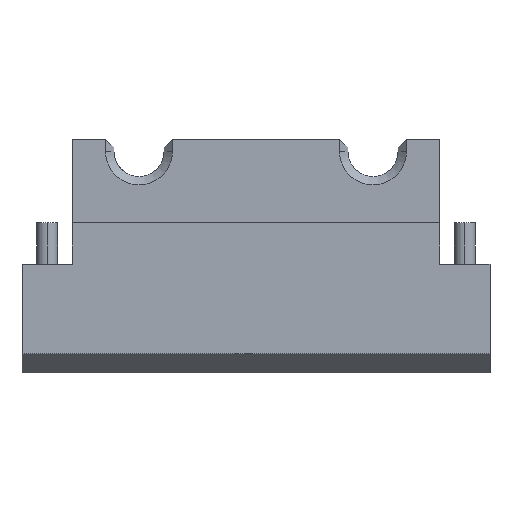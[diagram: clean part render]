
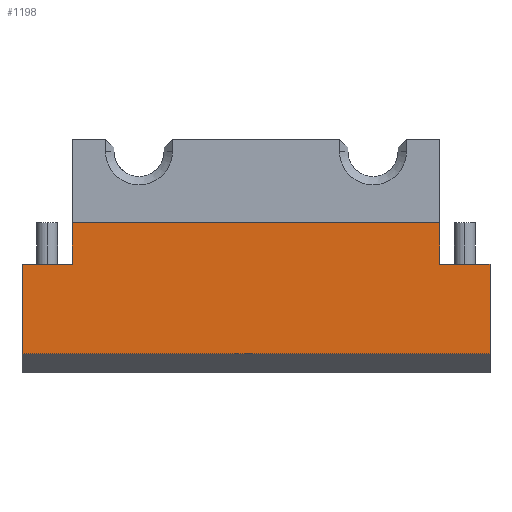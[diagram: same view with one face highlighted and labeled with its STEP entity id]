
A CAD part, left-side view. The second image highlights one B-rep face of the part: STEP entity #1198.
In plain terms, the highlighted planar face has unit normal (-1, 0, 0).
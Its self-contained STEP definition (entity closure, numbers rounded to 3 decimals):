
#13 = CARTESIAN_POINT ( 'NONE',  ( 0., -11., 28. ) ) ;
#19 = VERTEX_POINT ( 'NONE', #573 ) ;
#47 = LINE ( 'NONE', #464, #530 ) ;
#68 = VERTEX_POINT ( 'NONE', #670 ) ;
#91 = VECTOR ( 'NONE', #1097, 1000. ) ;
#93 = CARTESIAN_POINT ( 'NONE',  ( 0., -11., 13. ) ) ;
#95 = CARTESIAN_POINT ( 'NONE',  ( 0., 33., 18. ) ) ;
#104 = EDGE_CURVE ( 'NONE', #661, #295, #951, .T. ) ;
#112 = LINE ( 'NONE', #814, #432 ) ;
#136 = LINE ( 'NONE', #674, #340 ) ;
#156 = ORIENTED_EDGE ( 'NONE', *, *, #542, .T. ) ;
#197 = LINE ( 'NONE', #13, #415 ) ;
#202 = CARTESIAN_POINT ( 'NONE',  ( 0., 39., 28. ) ) ;
#204 = EDGE_CURVE ( 'NONE', #19, #661, #197, .T. ) ;
#211 = VERTEX_POINT ( 'NONE', #916 ) ;
#268 = DIRECTION ( 'NONE',  ( 0., 0., -1. ) ) ;
#289 = ORIENTED_EDGE ( 'NONE', *, *, #781, .F. ) ;
#295 = VERTEX_POINT ( 'NONE', #1681 ) ;
#340 = VECTOR ( 'NONE', #1062, 1000. ) ;
#364 = VECTOR ( 'NONE', #268, 1000. ) ;
#415 = VECTOR ( 'NONE', #1899, 1000. ) ;
#429 = VERTEX_POINT ( 'NONE', #848 ) ;
#432 = VECTOR ( 'NONE', #1536, 1000. ) ;
#447 = CARTESIAN_POINT ( 'NONE',  ( 0., -11., 13. ) ) ;
#457 = ORIENTED_EDGE ( 'NONE', *, *, #849, .F. ) ;
#464 = CARTESIAN_POINT ( 'NONE',  ( 0., 33., 13. ) ) ;
#504 = DIRECTION ( 'NONE',  ( 0., -1., 0. ) ) ;
#528 = CARTESIAN_POINT ( 'NONE',  ( 0., -17., 2.309 ) ) ;
#530 = VECTOR ( 'NONE', #551, 1000. ) ;
#542 = EDGE_CURVE ( 'NONE', #19, #1820, #112, .T. ) ;
#551 = DIRECTION ( 'NONE',  ( 0., 0., 1. ) ) ;
#561 = PLANE ( 'NONE',  #825 ) ;
#573 = CARTESIAN_POINT ( 'NONE',  ( 0., -11., 18. ) ) ;
#629 = DIRECTION ( 'NONE',  ( 0., 0., 1. ) ) ;
#661 = VERTEX_POINT ( 'NONE', #447 ) ;
#670 = CARTESIAN_POINT ( 'NONE',  ( 0., 33., 13. ) ) ;
#674 = CARTESIAN_POINT ( 'NONE',  ( 0., 39., 13. ) ) ;
#678 = CARTESIAN_POINT ( 'NONE',  ( 0., 39., 28. ) ) ;
#681 = DIRECTION ( 'NONE',  ( -1., 0., 0. ) ) ;
#683 = CARTESIAN_POINT ( 'NONE',  ( 0., 39., 2.309 ) ) ;
#698 = CARTESIAN_POINT ( 'NONE',  ( 0., -17., 28. ) ) ;
#702 = DIRECTION ( 'NONE',  ( 0., 0., -1. ) ) ;
#713 = LINE ( 'NONE', #202, #364 ) ;
#719 = VERTEX_POINT ( 'NONE', #528 ) ;
#753 = LINE ( 'NONE', #683, #1432 ) ;
#781 = EDGE_CURVE ( 'NONE', #68, #1820, #47, .T. ) ;
#814 = CARTESIAN_POINT ( 'NONE',  ( 0., -17., 18. ) ) ;
#825 = AXIS2_PLACEMENT_3D ( 'NONE', #678, #681, #629 ) ;
#848 = CARTESIAN_POINT ( 'NONE',  ( 0., 39., 2.309 ) ) ;
#849 = EDGE_CURVE ( 'NONE', #211, #68, #136, .T. ) ;
#860 = ORIENTED_EDGE ( 'NONE', *, *, #204, .F. ) ;
#916 = CARTESIAN_POINT ( 'NONE',  ( 0., 39., 13. ) ) ;
#951 = LINE ( 'NONE', #93, #91 ) ;
#1062 = DIRECTION ( 'NONE',  ( 0., -1., 0. ) ) ;
#1092 = EDGE_CURVE ( 'NONE', #295, #719, #1428, .T. ) ;
#1097 = DIRECTION ( 'NONE',  ( 0., -1., 0. ) ) ;
#1174 = EDGE_CURVE ( 'NONE', #429, #719, #753, .T. ) ;
#1196 = ORIENTED_EDGE ( 'NONE', *, *, #1337, .T. ) ;
#1198 = ADVANCED_FACE ( 'NONE', ( #1802 ), #561, .T. ) ;
#1337 = EDGE_CURVE ( 'NONE', #211, #429, #713, .T. ) ;
#1428 = LINE ( 'NONE', #698, #1468 ) ;
#1432 = VECTOR ( 'NONE', #504, 1000. ) ;
#1468 = VECTOR ( 'NONE', #702, 1000. ) ;
#1515 = ORIENTED_EDGE ( 'NONE', *, *, #1092, .F. ) ;
#1536 = DIRECTION ( 'NONE',  ( 0., 1., 0. ) ) ;
#1555 = EDGE_LOOP ( 'NONE', ( #156, #289, #457, #1196, #1868, #1515, #1662, #860 ) ) ;
#1662 = ORIENTED_EDGE ( 'NONE', *, *, #104, .F. ) ;
#1681 = CARTESIAN_POINT ( 'NONE',  ( 0., -17., 13. ) ) ;
#1802 = FACE_OUTER_BOUND ( 'NONE', #1555, .T. ) ;
#1820 = VERTEX_POINT ( 'NONE', #95 ) ;
#1868 = ORIENTED_EDGE ( 'NONE', *, *, #1174, .T. ) ;
#1899 = DIRECTION ( 'NONE',  ( 0., 0., -1. ) ) ;
